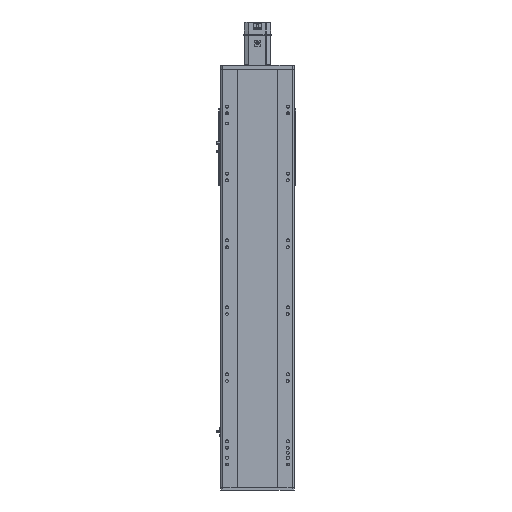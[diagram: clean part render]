
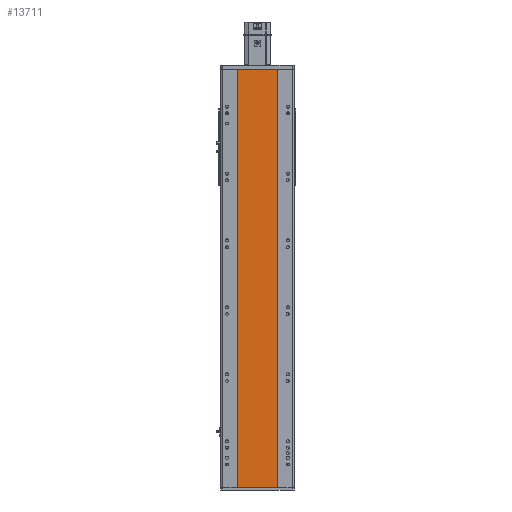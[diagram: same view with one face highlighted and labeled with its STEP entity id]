
A CAD part, front view. The second image highlights one B-rep face of the part: STEP entity #13711.
In plain terms, the highlighted planar face has unit normal (0, -1, 0).
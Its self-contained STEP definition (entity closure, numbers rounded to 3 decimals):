
#64 = VERTEX_POINT ( 'NONE', #24035 ) ;
#540 = ORIENTED_EDGE ( 'NONE', *, *, #16779, .F. ) ;
#544 = ORIENTED_EDGE ( 'NONE', *, *, #30191, .T. ) ;
#1659 = VECTOR ( 'NONE', #5135, 1000. ) ;
#2426 = CARTESIAN_POINT ( 'NONE',  ( 59., 1., 625.5 ) ) ;
#4015 = LINE ( 'NONE', #23130, #1659 ) ;
#5135 = DIRECTION ( 'NONE',  ( 1., 0., 0. ) ) ;
#6993 = LINE ( 'NONE', #35941, #38012 ) ;
#7322 = EDGE_CURVE ( 'NONE', #30791, #64, #25052, .T. ) ;
#9367 = ORIENTED_EDGE ( 'NONE', *, *, #7322, .F. ) ;
#9928 = CARTESIAN_POINT ( 'NONE',  ( -59., 1., 625.5 ) ) ;
#10463 = DIRECTION ( 'NONE',  ( 0., 1., 0. ) ) ;
#11099 = LINE ( 'NONE', #36808, #34155 ) ;
#13711 = ADVANCED_FACE ( 'NONE', ( #14443 ), #16790, .F. ) ;
#14443 = FACE_OUTER_BOUND ( 'NONE', #25091, .T. ) ;
#14586 = EDGE_CURVE ( 'NONE', #17502, #38487, #11099, .T. ) ;
#16396 = CARTESIAN_POINT ( 'NONE',  ( -59., 1., 625.5 ) ) ;
#16779 = EDGE_CURVE ( 'NONE', #17502, #30791, #6993, .T. ) ;
#16790 = PLANE ( 'NONE',  #36003 ) ;
#16809 = CARTESIAN_POINT ( 'NONE',  ( -59., 1., -625.5 ) ) ;
#17502 = VERTEX_POINT ( 'NONE', #9928 ) ;
#21567 = DIRECTION ( 'NONE',  ( 0., 0., -1. ) ) ;
#23130 = CARTESIAN_POINT ( 'NONE',  ( -59., 1., -625.5 ) ) ;
#24035 = CARTESIAN_POINT ( 'NONE',  ( 59., 1., -625.5 ) ) ;
#25052 = LINE ( 'NONE', #25312, #26947 ) ;
#25091 = EDGE_LOOP ( 'NONE', ( #544, #9367, #540, #28638 ) ) ;
#25312 = CARTESIAN_POINT ( 'NONE',  ( 59., 1., 625.5 ) ) ;
#26744 = DIRECTION ( 'NONE',  ( 1., 0., 0. ) ) ;
#26947 = VECTOR ( 'NONE', #31129, 1000. ) ;
#28638 = ORIENTED_EDGE ( 'NONE', *, *, #14586, .T. ) ;
#30191 = EDGE_CURVE ( 'NONE', #38487, #64, #4015, .T. ) ;
#30791 = VERTEX_POINT ( 'NONE', #2426 ) ;
#31129 = DIRECTION ( 'NONE',  ( 0., 0., -1. ) ) ;
#34155 = VECTOR ( 'NONE', #21567, 1000. ) ;
#34524 = DIRECTION ( 'NONE',  ( -1., 0., 0. ) ) ;
#35941 = CARTESIAN_POINT ( 'NONE',  ( -59., 1., 625.5 ) ) ;
#36003 = AXIS2_PLACEMENT_3D ( 'NONE', #16396, #10463, #34524 ) ;
#36808 = CARTESIAN_POINT ( 'NONE',  ( -59., 1., 625.5 ) ) ;
#38012 = VECTOR ( 'NONE', #26744, 1000. ) ;
#38487 = VERTEX_POINT ( 'NONE', #16809 ) ;
